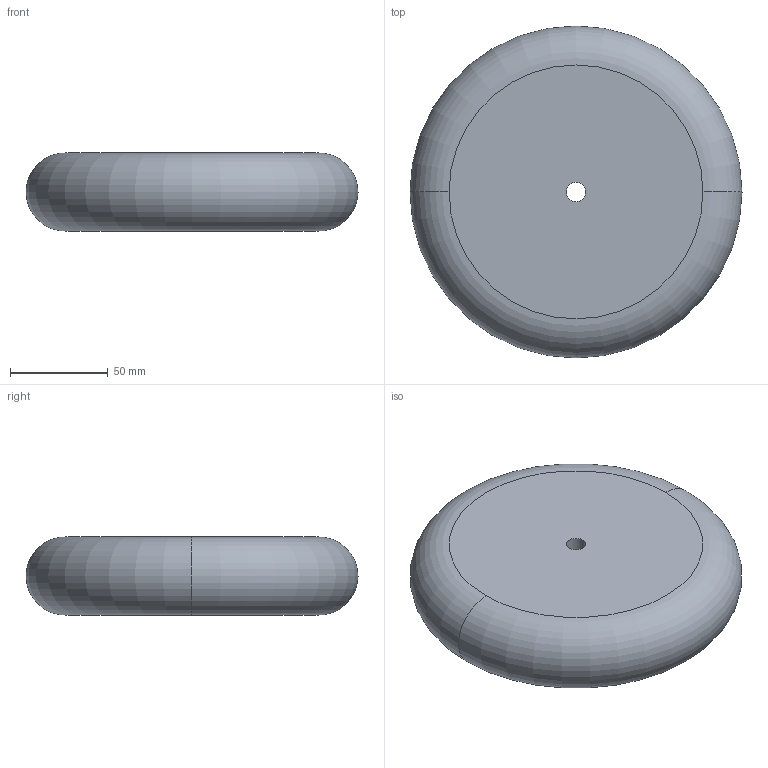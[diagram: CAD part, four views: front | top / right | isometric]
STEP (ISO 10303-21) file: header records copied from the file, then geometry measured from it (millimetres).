
FILE_DESCRIPTION (( 'STEP AP203' ), '1' );
FILE_NAME ('Roue.STEP', '2025-09-18T11:59:54', ( '' ), ( '' ), 'SwSTEP 2.0', 'SolidWorks 2019', '' );
FILE_SCHEMA (( 'CONFIG_CONTROL_DESIGN' ));
Length unit declared in the file: millimetre
Products named in the file (1): Roue
Bounding box: 170 x 170 x 40 mm (x, y, z)
Volume: 817907.6 mm3; surface area: 58333.5 mm2
Topology: 1 solids, 1 shells, 6 faces, 12 edges, 8 vertices
Faces by surface type: cylinder 2, torus 2, plane 2
Entity records: 247 total; most frequent: DIRECTION 36, CARTESIAN_POINT 27, ORIENTED_EDGE 24, AXIS2_PLACEMENT_3D 17, EDGE_CURVE 12, CIRCLE 10, EDGE_LOOP 8, PERSON_AND_ORGANIZATION 8
